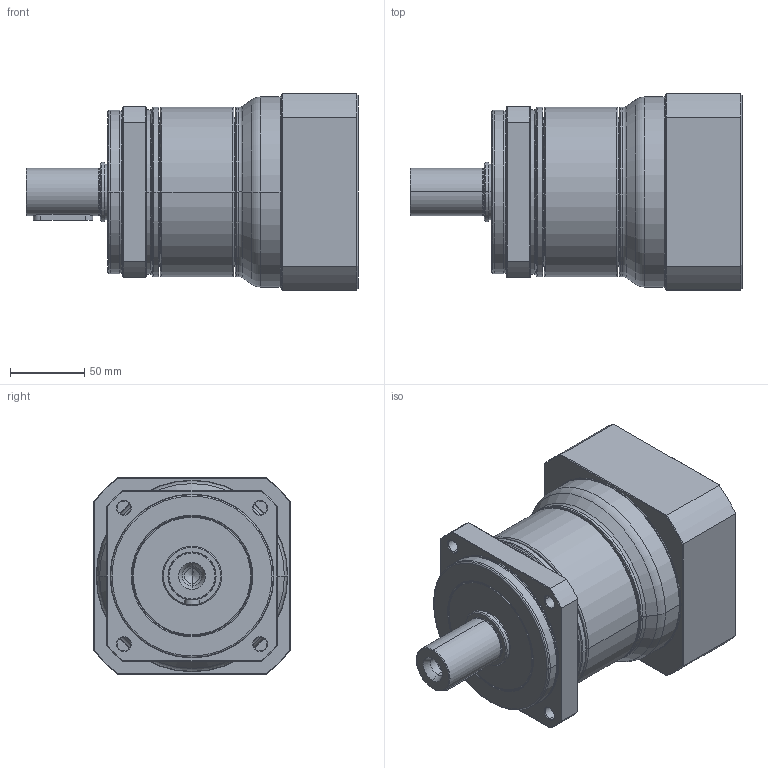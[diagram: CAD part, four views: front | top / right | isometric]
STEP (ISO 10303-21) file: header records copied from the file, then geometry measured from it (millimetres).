
FILE_DESCRIPTION((''),'2;1');
FILE_NAME('PA2-115_1ST_35-P0411800101_ASM','2016-05-05T',('d01943'),(''),'PRO/ENGINEER BY PARAMETRIC TECHNOLOGY CORPORATION, 2008410','PRO/ENGINEER BY PARAMETRIC TECHNOLOGY CORPORATION, 2008410','');
FILE_SCHEMA(('CONFIG_CONTROL_DESIGN'));
Length unit declared in the file: millimetre
Products named in the file (9): P1327410001; P0250400001; P1324400401; P0350400601; P0941404001; P0503800010; P0411800101; P1702600001; PA2-115_1ST_35-P0411800101_ASM
Assembly tree (8 placements, depth 2):
  PA2-115_1ST_35-P0411800101_ASM
    P1327410001
    P0250400001
    P1324400401
    P0350400601
    P0941404001
    P0503800010
    P0411800101
    P1702600001
Bounding box: 223.5 x 132 x 132 mm (x, y, z)
Volume: 1552063 mm3; surface area: 270578.3 mm2
Topology: 8 solids, 8 shells, 463 faces, 1012 edges, 584 vertices
Faces by surface type: cone 144, cylinder 129, torus 88, plane 86, bspline 16
Entity records: 17399 total; most frequent: CARTESIAN_POINT 6983, DIRECTION 2356, ORIENTED_EDGE 1984, AXIS2_PLACEMENT_3D 1005, EDGE_CURVE 992, VERTEX_POINT 584, CIRCLE 541, EDGE_LOOP 526
